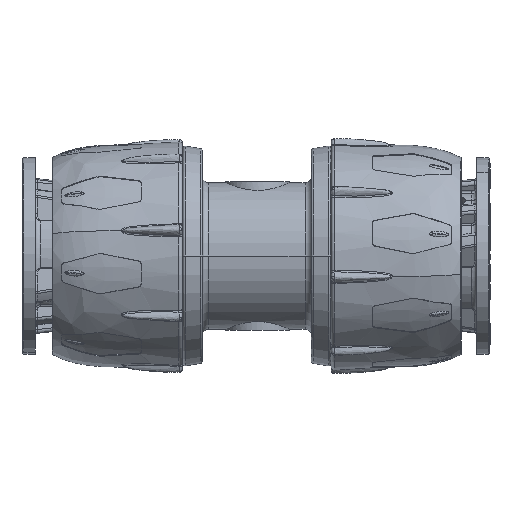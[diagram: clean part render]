
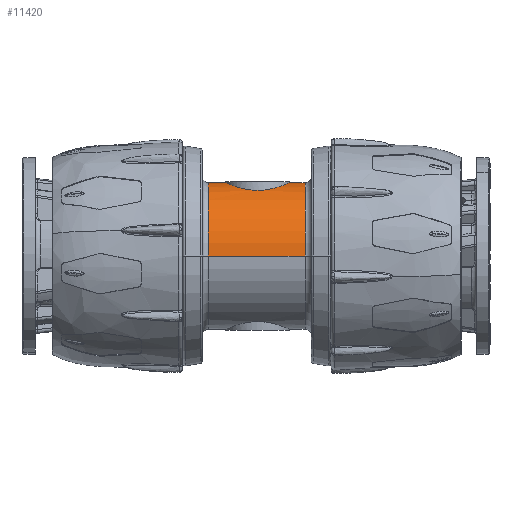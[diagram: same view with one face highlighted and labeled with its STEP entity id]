
A CAD part, front view. The second image highlights one B-rep face of the part: STEP entity #11420.
In plain terms, the highlighted cylindrical face has radius 11.55 mm (diameter 23.1 mm), a partial arc.
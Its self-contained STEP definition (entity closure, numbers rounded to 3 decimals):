
#387 = CARTESIAN_POINT ( 'NONE',  ( 6.244, -1.652, 11.436 ) ) ;
#1132 = CARTESIAN_POINT ( 'NONE',  ( 3.254, -11.55, 0. ) ) ;
#5194 = DIRECTION ( 'NONE',  ( -1., 0., 0. ) ) ;
#5890 = B_SPLINE_CURVE_WITH_KNOTS ( 'NONE', 3,
 ( #79728, #13535, #32411, #74034, #6943, #19638, #387, #13969, #27103, #53873, #59189, #20513, #79300, #40730, #67471, #19214, #12673, #39437, #46450, #13103, #39860, #75780, #55195, #68322, #63078, #76642, #15253, #21810, #48617, #16122, #62216, #8245, #81884, #42038, #28849, #49053, #62645, #76216 ),
 .UNSPECIFIED., .F., .F.,
 ( 4, 2, 2, 2, 2, 2, 2, 2, 2, 2, 2, 2, 2, 2, 2, 2, 2, 2, 4 ),
 ( 0.027, 0.028, 0.028, 0.029, 0.03, 0.031, 0.032, 0.033, 0.034, 0.034, 0.035, 0.036, 0.037, 0.038, 0.039, 0.04, 0.041, 0.042, 0.043 ),
 .UNSPECIFIED. ) ;
#6917 = CYLINDRICAL_SURFACE ( 'NONE', #60370, 11.55 ) ;
#6943 = CARTESIAN_POINT ( 'NONE',  ( 6.052, -0.839, 11.521 ) ) ;
#6995 = CIRCLE ( 'NONE', #23777, 11.55 ) ;
#8245 = CARTESIAN_POINT ( 'NONE',  ( 15.364, -2.555, 11.267 ) ) ;
#11139 = LINE ( 'NONE', #44485, #41884 ) ;
#11420 = ADVANCED_FACE ( 'NONE', ( #60460 ), #6917, .T. ) ;
#12673 = CARTESIAN_POINT ( 'NONE',  ( 9.369, -4.845, 10.485 ) ) ;
#13103 = CARTESIAN_POINT ( 'NONE',  ( 10.337, -5.088, 10.369 ) ) ;
#13535 = CARTESIAN_POINT ( 'NONE',  ( 5.987, -0.167, 11.55 ) ) ;
#13735 = CARTESIAN_POINT ( 'NONE',  ( 5.987, 0., 11.55 ) ) ;
#13969 = CARTESIAN_POINT ( 'NONE',  ( 6.495, -2.268, 11.329 ) ) ;
#14810 = DIRECTION ( 'NONE',  ( 1., 0., 0. ) ) ;
#15253 = CARTESIAN_POINT ( 'NONE',  ( 13.552, -4.424, 10.671 ) ) ;
#16122 = CARTESIAN_POINT ( 'NONE',  ( 14.798, -3.366, 11.051 ) ) ;
#16678 = EDGE_LOOP ( 'NONE', ( #69969, #84989, #37563, #19450, #81579, #30459 ) ) ;
#19214 = CARTESIAN_POINT ( 'NONE',  ( 9.212, -4.786, 10.512 ) ) ;
#19416 = DIRECTION ( 'NONE',  ( -1., 0., 0. ) ) ;
#19450 = ORIENTED_EDGE ( 'NONE', *, *, #79675, .T. ) ;
#19638 = CARTESIAN_POINT ( 'NONE',  ( 6.149, -1.333, 11.478 ) ) ;
#20356 = EDGE_CURVE ( 'NONE', #60913, #38681, #6995, .T. ) ;
#20513 = CARTESIAN_POINT ( 'NONE',  ( 7.675, -3.844, 10.894 ) ) ;
#21371 = CARTESIAN_POINT ( 'NONE',  ( 3.254, 0., 0. ) ) ;
#21810 = CARTESIAN_POINT ( 'NONE',  ( 14.096, -4.046, 10.82 ) ) ;
#22187 = VERTEX_POINT ( 'NONE', #54073 ) ;
#23777 = AXIS2_PLACEMENT_3D ( 'NONE', #21371, #14810, #41573 ) ;
#25321 = EDGE_CURVE ( 'NONE', #34047, #22187, #46469, .T. ) ;
#27103 = CARTESIAN_POINT ( 'NONE',  ( 6.651, -2.565, 11.265 ) ) ;
#28849 = CARTESIAN_POINT ( 'NONE',  ( 15.862, -1.324, 11.479 ) ) ;
#29005 = EDGE_CURVE ( 'NONE', #38681, #34047, #50376, .T. ) ;
#30459 = ORIENTED_EDGE ( 'NONE', *, *, #29005, .T. ) ;
#32411 = CARTESIAN_POINT ( 'NONE',  ( 5.995, -0.335, 11.546 ) ) ;
#33683 = CARTESIAN_POINT ( 'NONE',  ( 14.504, 0., 0. ) ) ;
#34047 = VERTEX_POINT ( 'NONE', #37227 ) ;
#34892 = VERTEX_POINT ( 'NONE', #13735 ) ;
#35917 = CARTESIAN_POINT ( 'NONE',  ( 14.504, -11.55, 0. ) ) ;
#36163 = EDGE_CURVE ( 'NONE', #22187, #37204, #51742, .T. ) ;
#37204 = VERTEX_POINT ( 'NONE', #64743 ) ;
#37227 = CARTESIAN_POINT ( 'NONE',  ( 18.504, -11.55, 0. ) ) ;
#37563 = ORIENTED_EDGE ( 'NONE', *, *, #80411, .F. ) ;
#38681 = VERTEX_POINT ( 'NONE', #1132 ) ;
#39410 = DIRECTION ( 'NONE',  ( 0., 0., 1. ) ) ;
#39437 = CARTESIAN_POINT ( 'NONE',  ( 9.688, -4.945, 10.438 ) ) ;
#39860 = CARTESIAN_POINT ( 'NONE',  ( 10.67, -5.123, 10.352 ) ) ;
#40730 = CARTESIAN_POINT ( 'NONE',  ( 8.469, -4.431, 10.668 ) ) ;
#41573 = DIRECTION ( 'NONE',  ( 0., 0., 1. ) ) ;
#41884 = VECTOR ( 'NONE', #19416, 1000. ) ;
#42038 = CARTESIAN_POINT ( 'NONE',  ( 15.765, -1.65, 11.436 ) ) ;
#44485 = CARTESIAN_POINT ( 'NONE',  ( 14.504, 0., 11.55 ) ) ;
#46450 = CARTESIAN_POINT ( 'NONE',  ( 9.849, -4.987, 10.418 ) ) ;
#46469 = CIRCLE ( 'NONE', #84234, 11.55 ) ;
#47657 = DIRECTION ( 'NONE',  ( -1., 0., 0. ) ) ;
#48617 = CARTESIAN_POINT ( 'NONE',  ( 14.344, -3.835, 10.898 ) ) ;
#49053 = CARTESIAN_POINT ( 'NONE',  ( 15.989, -0.67, 11.535 ) ) ;
#50376 = LINE ( 'NONE', #35917, #62867 ) ;
#51286 = CARTESIAN_POINT ( 'NONE',  ( 3.254, 0., 11.55 ) ) ;
#51742 = LINE ( 'NONE', #78454, #70237 ) ;
#53873 = CARTESIAN_POINT ( 'NONE',  ( 7.01, -3.114, 11.126 ) ) ;
#54073 = CARTESIAN_POINT ( 'NONE',  ( 18.504, 0., 11.55 ) ) ;
#55195 = CARTESIAN_POINT ( 'NONE',  ( 11.682, -5.087, 10.37 ) ) ;
#59189 = CARTESIAN_POINT ( 'NONE',  ( 7.214, -3.37, 11.05 ) ) ;
#59626 = DIRECTION ( 'NONE',  ( -1., 0., 0. ) ) ;
#60370 = AXIS2_PLACEMENT_3D ( 'NONE', #33683, #5194, #39410 ) ;
#60460 = FACE_OUTER_BOUND ( 'NONE', #16678, .T. ) ;
#60913 = VERTEX_POINT ( 'NONE', #51286 ) ;
#62216 = CARTESIAN_POINT ( 'NONE',  ( 15.005, -3.106, 11.128 ) ) ;
#62543 = CARTESIAN_POINT ( 'NONE',  ( 18.504, 0., 0. ) ) ;
#62645 = CARTESIAN_POINT ( 'NONE',  ( 16.022, -0.338, 11.55 ) ) ;
#62867 = VECTOR ( 'NONE', #63559, 1000. ) ;
#63078 = CARTESIAN_POINT ( 'NONE',  ( 12.658, -4.847, 10.485 ) ) ;
#63559 = DIRECTION ( 'NONE',  ( 1., 0., 0. ) ) ;
#64743 = CARTESIAN_POINT ( 'NONE',  ( 16.022, 0., 11.55 ) ) ;
#67471 = CARTESIAN_POINT ( 'NONE',  ( 8.755, -4.59, 10.6 ) ) ;
#68224 = DIRECTION ( 'NONE',  ( 0., 0., -1. ) ) ;
#68322 = CARTESIAN_POINT ( 'NONE',  ( 12.335, -4.95, 10.436 ) ) ;
#69969 = ORIENTED_EDGE ( 'NONE', *, *, #25321, .T. ) ;
#70237 = VECTOR ( 'NONE', #59626, 1000. ) ;
#74034 = CARTESIAN_POINT ( 'NONE',  ( 6.027, -0.67, 11.532 ) ) ;
#75780 = CARTESIAN_POINT ( 'NONE',  ( 11.349, -5.122, 10.352 ) ) ;
#76216 = CARTESIAN_POINT ( 'NONE',  ( 16.022, 0., 11.55 ) ) ;
#76642 = CARTESIAN_POINT ( 'NONE',  ( 13.265, -4.584, 10.602 ) ) ;
#78454 = CARTESIAN_POINT ( 'NONE',  ( 14.504, 0., 11.55 ) ) ;
#79300 = CARTESIAN_POINT ( 'NONE',  ( 7.928, -4.058, 10.815 ) ) ;
#79675 = EDGE_CURVE ( 'NONE', #34892, #60913, #11139, .T. ) ;
#79728 = CARTESIAN_POINT ( 'NONE',  ( 5.987, 0., 11.55 ) ) ;
#80411 = EDGE_CURVE ( 'NONE', #34892, #37204, #5890, .T. ) ;
#81579 = ORIENTED_EDGE ( 'NONE', *, *, #20356, .T. ) ;
#81884 = CARTESIAN_POINT ( 'NONE',  ( 15.516, -2.264, 11.33 ) ) ;
#84234 = AXIS2_PLACEMENT_3D ( 'NONE', #62543, #47657, #68224 ) ;
#84989 = ORIENTED_EDGE ( 'NONE', *, *, #36163, .T. ) ;
